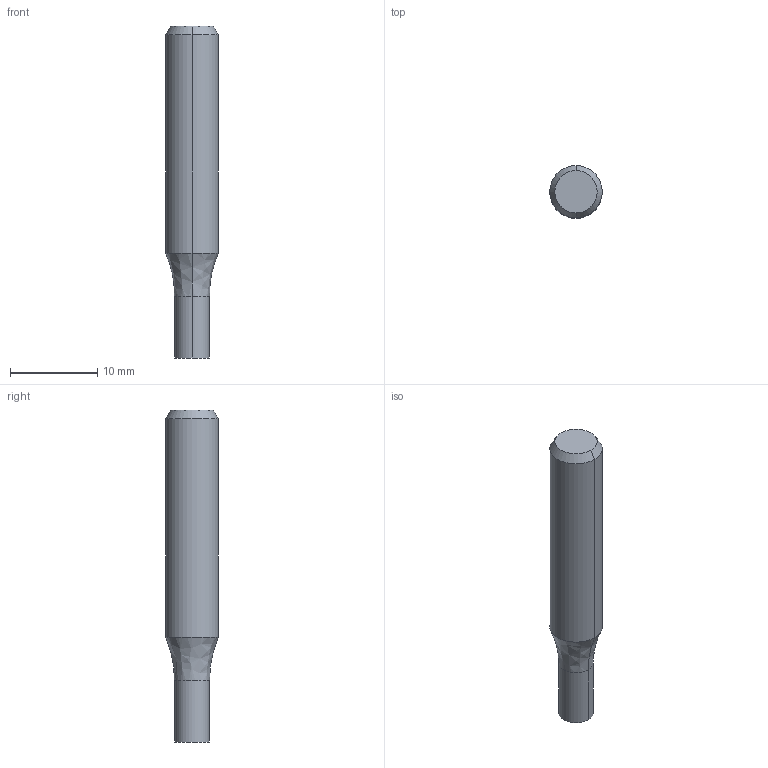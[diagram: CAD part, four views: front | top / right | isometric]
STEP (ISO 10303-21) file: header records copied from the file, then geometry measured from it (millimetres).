
FILE_DESCRIPTION((''),'2;1');
FILE_NAME('DIN4003_82_HEURO','2018-10-10T',('moesset'),(''),'PRO/ENGINEER BY PARAMETRIC TECHNOLOGY CORPORATION, 2015280','PRO/ENGINEER BY PARAMETRIC TECHNOLOGY CORPORATION, 2015280','');
FILE_SCHEMA(('AUTOMOTIVE_DESIGN { 1 0 10303 214 1 1 1 1 }'));
Length unit declared in the file: millimetre
Products named in the file (1): DIN4003_82_HEURO
Bounding box: 6 x 6 x 38 mm (x, y, z)
Volume: 904.5 mm3; surface area: 685.2 mm2
Topology: 1 solids, 1 shells, 10 faces, 20 edges, 13 vertices
Faces by surface type: bspline 10
Entity records: 885 total; most frequent: CARTESIAN_POINT 459, DIRECTION 61, ORIENTED_EDGE 36, AXIS2_PLACEMENT_3D 24, PRESENTATION_STYLE_ASSIGNMENT 20, STYLED_ITEM 20, COLOUR_RGB 18, EDGE_CURVE 18
